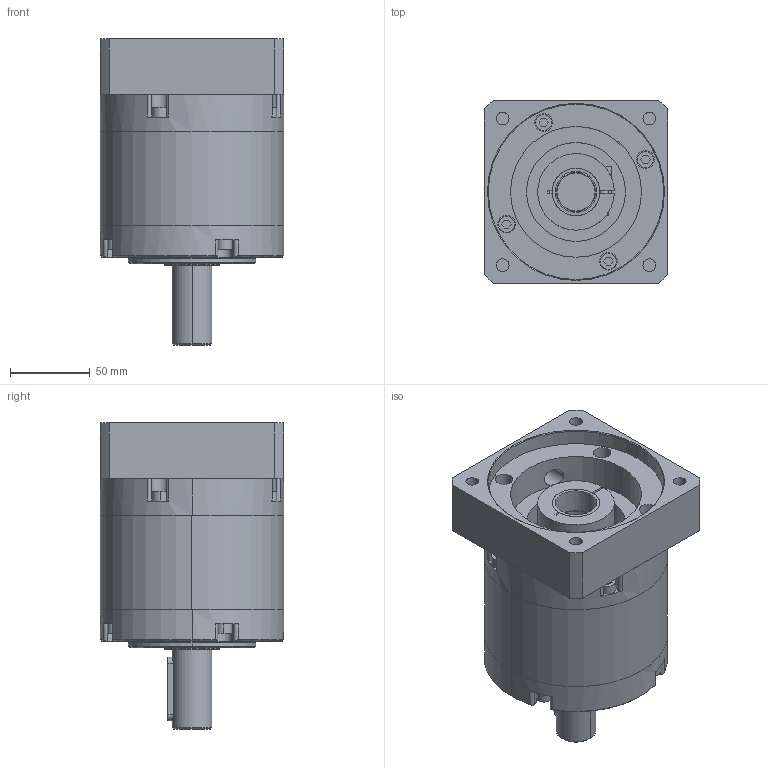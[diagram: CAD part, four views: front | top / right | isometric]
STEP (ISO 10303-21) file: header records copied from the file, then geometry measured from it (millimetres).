
FILE_DESCRIPTION((''),'2;1');
FILE_NAME('PV115FB-SINGLE-24-AD_ASM','2009-05-27T',('ata7311'),(''),'PRO/ENGINEER BY PARAMETRIC TECHNOLOGY CORPORATION, 2006300','PRO/ENGINEER BY PARAMETRIC TECHNOLOGY CORPORATION, 2006300','');
FILE_SCHEMA(('CONFIG_CONTROL_DESIGN'));
Products named in the file (13): PV115_HM_SINGLE; PV115_SHFT_FB; PV115-COVER-TN; PV115_REAR_COVER; MU115_HR_LONG; M6X30; M6X20; PV115_SUN_CLMP; PV115_CLAMP; M6X25; HD202-0032; 5100-137; PV115FB-SINGLE-24-AD_ASM
Assembly tree (22 placements, depth 2):
  PV115FB-SINGLE-24-AD_ASM
    PV115_HM_SINGLE
    PV115_SHFT_FB
    PV115-COVER-TN
    PV115_REAR_COVER
    MU115_HR_LONG
    M6X30  x8
    M6X20  x4
    PV115_SUN_CLMP
    PV115_CLAMP
    M6X25
    HD202-0032
    5100-137
Bounding box: 115 x 115 x 192 mm (x, y, z)
Volume: 909375.5 mm3; surface area: 209804.1 mm2
Topology: 22 solids, 22 shells, 451 faces, 1033 edges, 682 vertices
Faces by surface type: plane 225, cylinder 202, cone 20, torus 4
Entity records: 9740 total; most frequent: CARTESIAN_POINT 1844, DIRECTION 1755, ORIENTED_EDGE 1466, EDGE_CURVE 733, AXIS2_PLACEMENT_3D 707, VERTEX_POINT 482, EDGE_LOOP 385, CIRCLE 361
